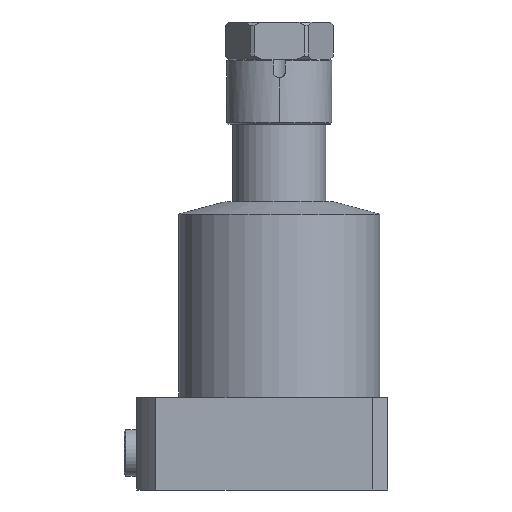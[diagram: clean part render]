
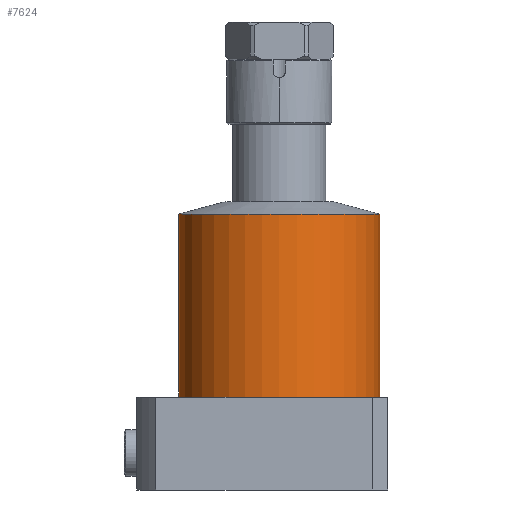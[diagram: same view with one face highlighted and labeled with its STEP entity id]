
A CAD part, front view. The second image highlights one B-rep face of the part: STEP entity #7624.
In plain terms, the highlighted cylindrical face has radius 32.5 mm (diameter 65 mm), a partial arc.
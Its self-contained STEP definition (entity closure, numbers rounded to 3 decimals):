
#294 = VERTEX_POINT ( 'NONE', #5078 ) ;
#704 = CARTESIAN_POINT ( 'NONE',  ( 32.5, 0., 88.981 ) ) ;
#878 = VECTOR ( 'NONE', #16824, 1000. ) ;
#1551 = EDGE_CURVE ( 'NONE', #5407, #5676, #10626, .T. ) ;
#1578 = EDGE_CURVE ( 'NONE', #5676, #9470, #6582, .T. ) ;
#1613 = CARTESIAN_POINT ( 'NONE',  ( 32.5, 0., 30. ) ) ;
#2046 = EDGE_CURVE ( 'NONE', #294, #5407, #3552, .T. ) ;
#2104 = CARTESIAN_POINT ( 'NONE',  ( -32.5, 0., 30. ) ) ;
#3529 = EDGE_LOOP ( 'NONE', ( #4781, #11149, #11445, #5854 ) ) ;
#3552 = CIRCLE ( 'NONE', #16366, 32.5 ) ;
#4781 = ORIENTED_EDGE ( 'NONE', *, *, #1551, .F. ) ;
#4940 = CARTESIAN_POINT ( 'NONE',  ( 32.5, 0., 93. ) ) ;
#5078 = CARTESIAN_POINT ( 'NONE',  ( -32.5, 0., 88.981 ) ) ;
#5263 = AXIS2_PLACEMENT_3D ( 'NONE', #14637, #6409, #16037 ) ;
#5407 = VERTEX_POINT ( 'NONE', #704 ) ;
#5676 = VERTEX_POINT ( 'NONE', #1613 ) ;
#5854 = ORIENTED_EDGE ( 'NONE', *, *, #1578, .F. ) ;
#5862 = CARTESIAN_POINT ( 'NONE',  ( 0., 0., 93. ) ) ;
#6409 = DIRECTION ( 'NONE',  ( 0., 0., -1. ) ) ;
#6582 = CIRCLE ( 'NONE', #5263, 32.5 ) ;
#7541 = DIRECTION ( 'NONE',  ( 0., 0., 1. ) ) ;
#7624 = ADVANCED_FACE ( 'NONE', ( #8732 ), #11952, .T. ) ;
#8732 = FACE_OUTER_BOUND ( 'NONE', #3529, .T. ) ;
#9470 = VERTEX_POINT ( 'NONE', #2104 ) ;
#9488 = AXIS2_PLACEMENT_3D ( 'NONE', #5862, #15430, #15492 ) ;
#10200 = VECTOR ( 'NONE', #17347, 1000. ) ;
#10626 = LINE ( 'NONE', #4940, #10200 ) ;
#11149 = ORIENTED_EDGE ( 'NONE', *, *, #2046, .F. ) ;
#11445 = ORIENTED_EDGE ( 'NONE', *, *, #16229, .T. ) ;
#11775 = LINE ( 'NONE', #15405, #878 ) ;
#11952 = CYLINDRICAL_SURFACE ( 'NONE', #9488, 32.5 ) ;
#14637 = CARTESIAN_POINT ( 'NONE',  ( 0., 0., 30. ) ) ;
#15405 = CARTESIAN_POINT ( 'NONE',  ( -32.5, 0., 93. ) ) ;
#15430 = DIRECTION ( 'NONE',  ( 0., 0., -1. ) ) ;
#15492 = DIRECTION ( 'NONE',  ( -1., 0., 0. ) ) ;
#15787 = CARTESIAN_POINT ( 'NONE',  ( 0., 0., 88.981 ) ) ;
#16037 = DIRECTION ( 'NONE',  ( -1., 0., 0. ) ) ;
#16229 = EDGE_CURVE ( 'NONE', #294, #9470, #11775, .T. ) ;
#16366 = AXIS2_PLACEMENT_3D ( 'NONE', #15787, #7541, #17207 ) ;
#16824 = DIRECTION ( 'NONE',  ( 0., 0., -1. ) ) ;
#17207 = DIRECTION ( 'NONE',  ( -1., 0., 0. ) ) ;
#17347 = DIRECTION ( 'NONE',  ( 0., 0., -1. ) ) ;
